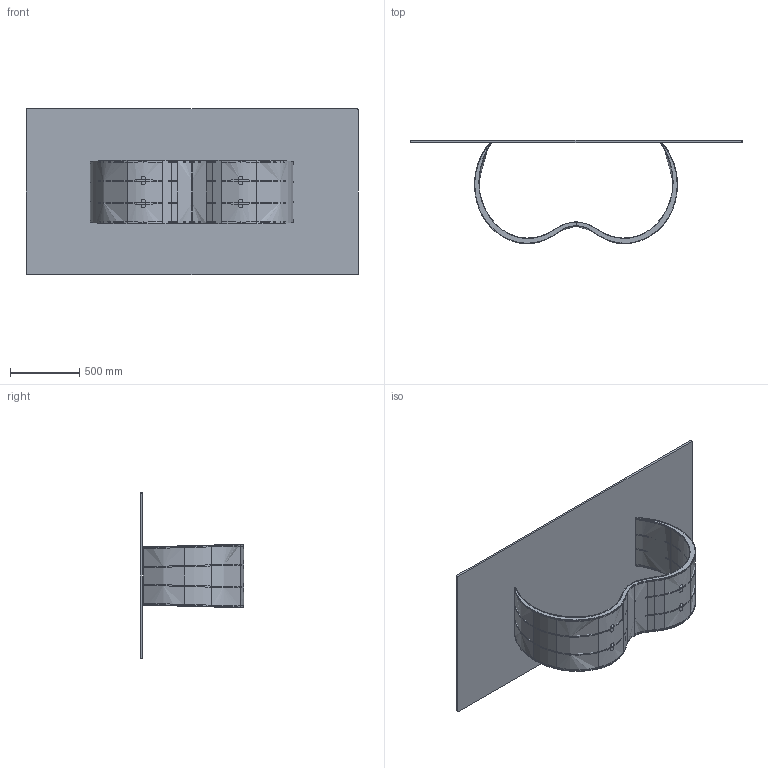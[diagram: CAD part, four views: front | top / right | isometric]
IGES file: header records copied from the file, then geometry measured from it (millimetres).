
Start section: SolidWorks IGES file using analytic representation for surfaces
Global section: file name: Y:\eforma\TECNICO\SOLIDWORKS\E-FORMA\1-TAVOLI\ALISEI 240-300\02 parts\AI23G_Alisei_240x120_Glass Rectangular.IGS; native system: SolidWorks 2022; preprocessor: SolidWorks 2022; author: eforma.tech; date: 240801.145014; units: millimetre
Bounding box: 2400 x 746 x 1200 mm (x, y, z)
Volume: 50412873.8 mm3; surface area: 11373190.3 mm2
Topology: 17 solids, 17 shells, 1038 faces, 2876 edges, 1864 vertices
Faces by surface type: bspline 552, plane 326, revolution 160
